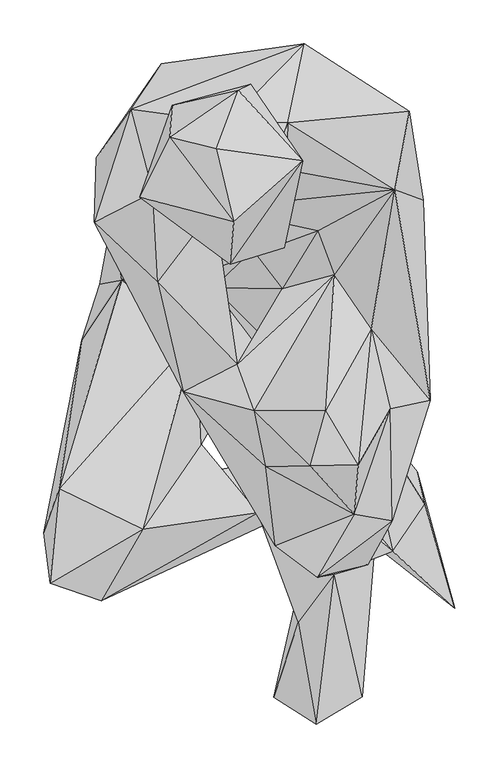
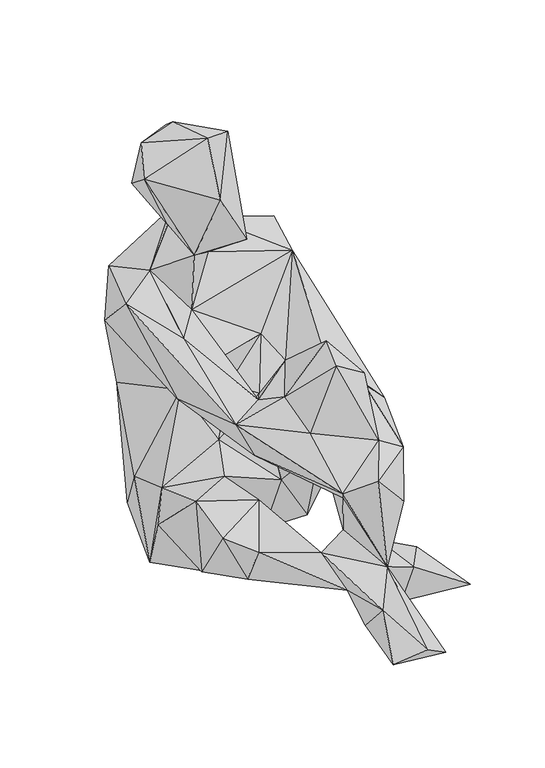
"""IFC4 building model written with IfcOpenShell, lengths in millimetres: geographic element geometry, TempEnscape AssetDefinition - Rea 003 Sitting : TempEnscape AssetDefinition - Rea 003 Sitting."""

from ifc_helpers import new_model, si_unit, origin, place, context, project, spatial, faceted_brep, source, transform, mapped, element, save


def geographic_element_7607d973(model_context):
    return source(origin(), model_context, "Body", "Brep", [
        faceted_brep([(-171.890825, -33.5494988, 18.2507243), (-59.1670536, 25.9828791, -4.3757376), (-60.6267154, -134.9384189, 13.6026246), (-133.6654872, 108.2183644, 41.0704501), (27.0103551, -74.4462535, 42.4086116), (78.2568827, 66.0454258, -0.6539958), (-60.9137602, -91.3677812, 190.4457062), (-55.5407144, -217.1567976, 160.4931802), (111.03414, -72.8137121, 39.5153724), (35.9885246, -115.2402684, 163.7623459), (74.8278871, 155.036971, 46.8031056), (162.9680991, 32.1925767, 31.4505138), (121.9881698, -180.1733971, 254.6302676), (73.0575323, -183.9130968, 256.2440336), (181.1193377, -60.6283508, 146.3148445), (171.4088768, 102.473475, 129.274264), (40.9774855, 194.372952, 167.7140594), (126.7365664, 99.9007225, 199.2738396), (163.0113125, -86.5076706, 274.6366858), (206.608057, -166.4296985, 303.9889932), (178.6452383, -3.2438845, 316.7158067), (90.2122855, 35.7495956, 297.0592678), (112.2410148, 154.3373019, 332.8969181), (107.1158722, 59.7566254, 236.3330573), (198.8962889, 62.3628236, 361.8154526), (166.1761105, 74.186936, 473.5500515), (182.7070266, 164.0697718, 484.1428101), (62.2869879, 241.5772378, 418.1658924), (43.6758325, 150.7884413, 539.4666791), (-100.9143293, 218.8969702, 315.5929446), (-136.2553835, 166.8048203, 492.0274615), (-25.7341657, 151.5843272, 579.4036388), (-93.2335481, 144.0593004, 142.3859894), (-148.754701, 116.9176623, 287.7907753), (-175.3312349, 110.9069288, 427.5102019), (-178.0719757, 37.2687951, 506.8663359), (-110.9892875, 71.7063248, 531.8119526), (-127.5903434, -49.6368147, 346.8787372), (-80.7122141, 22.3581772, 305.6949377), (-157.0283026, 43.5608551, 141.8950707), (-146.1623609, -29.0383957, 159.0922326), (-192.3522353, -98.1222093, 140.6091005), (-169.5765555, -269.8996663, 136.908561), (-40.8372283, -37.5476815, 225.8259058), (-218.2601094, -268.2638764, 301.5304208), (-235.8315587, -318.6191022, 193.7124282), (-228.4459621, -376.1536181, 294.4041491), (-122.5818172, -314.5858645, 299.057126), (-169.7844863, -396.1958885, 257.7983141), (9.2709213, -295.6721783, 133.0261827), (-181.6673279, -379.7970712, 196.1685866), (64.4455031, -287.4613404, 31.9601744), (-83.1088424, -254.0162206, 113.1159961), (71.5676993, -228.047207, 51.1943363), (143.2748288, -332.7411711, 8.5557662), (63.76867, -349.3503928, -2.7122071), (55.9207201, -421.0265279, 74.9273747), (96.0697085, -206.2883824, 5.4219682), (50.7515445, -297.4669933, 166.3832217), (97.1069634, -365.8168912, 115.5672595), (110.636197, -296.0497141, 131.4727366), (49.9042869, -297.7075577, 233.1242263), (-55.6459166, -183.5167855, 287.206918), (29.6279676, -333.1758082, 269.798547), (12.2432588, -109.9414229, 288.4137928), (-76.1831775, -156.9410563, 341.5179253), (-54.9323894, -21.4008316, 371.1296022), (-14.237049, -125.1651794, 351.7502546), (37.5631712, -39.1940847, 294.7988212), (3.4934143, 4.8348396, 298.3484864), (96.7285931, -23.0504982, 331.2970102), (78.1353787, 27.3895413, 362.1228933), (-40.2655937, 53.0984253, 437.1627569), (139.0132457, -84.7903118, 363.8557196), (19.5644237, 101.3187915, 505.3145289), (87.3435065, -177.9602617, 469.0104425), (124.4467646, -240.4878139, 428.6567569), (161.2817347, -176.4549315, 352.8356254), (163.096115, -304.4815361, 301.5393913), (119.6779758, -297.1147299, 326.233834), (69.6831793, -241.8952882, 462.7991021), (5.5711963, -178.8906902, 382.9439282), (18.6405126, -242.5517291, 342.2632515), (77.3256272, -369.6218133, 300.4279137), (-105.3512245, -31.6233896, 451.6069591), (-53.1098396, 23.5626064, 571.4520812), (-66.7980909, 88.412568, 599.4564891), (39.5936593, 7.7460185, 581.3606977), (-22.377748, -11.0567696, 694.1774487), (-125.5884022, 65.95736, 726.8282771), (60.6846176, 107.3238179, 735.2266908), (35.2774486, 126.3671666, 610.9780669), (-17.9742854, 37.6471654, 789.845109), (-91.2536234, 134.4564855, 747.6199865), (-88.6531323, 171.0264385, 642.2019005), (-38.4120606, 121.0985035, 780.6900144), (-12.9796155, 188.4119511, 725.1158357), (1.5526285, 194.9209273, 652.3535252), (135.4480833, -354.9484909, 230.5229157), (163.7395173, -339.5445347, 77.0141259), (235.0911051, -404.5559466, 54.7081381), (200.485602, -285.6183946, 72.159715), (123.8677874, -163.2013172, 52.4574779), (191.762656, -248.2248545, -2.1968388), (129.1380823, -506.33955, 14.7564942), (27.4906568, -506.9519877, 24.7091372), (76.5892714, -537.7231836, 57.4741662)], [[[0, 1, 2]], [[3, 1, 0]], [[2, 1, 4]], [[4, 1, 5]], [[3, 5, 1]], [[6, 7, 4]], [[4, 5, 8]], [[4, 7, 2]], [[4, 9, 6]], [[4, 8, 9]], [[10, 5, 3]], [[5, 11, 8]], [[10, 11, 5]], [[12, 13, 8]], [[14, 12, 8]], [[11, 14, 8]], [[13, 9, 8]], [[11, 15, 14]], [[10, 15, 11]], [[16, 10, 3]], [[16, 15, 10]], [[17, 18, 15]], [[16, 17, 15]], [[15, 18, 14]], [[14, 18, 12]], [[18, 19, 12]], [[18, 20, 19]], [[21, 18, 17]], [[20, 18, 21]], [[22, 23, 17]], [[16, 22, 17]], [[23, 21, 17]], [[22, 24, 21]], [[22, 21, 23]], [[21, 24, 20]], [[24, 19, 20]], [[25, 19, 24]], [[26, 25, 24]], [[22, 26, 24]], [[16, 27, 22]], [[27, 26, 22]], [[28, 26, 27]], [[28, 25, 26]], [[27, 29, 30]], [[27, 16, 29]], [[31, 27, 30]], [[28, 27, 31]], [[29, 32, 33]], [[29, 16, 32]], [[29, 34, 30]], [[29, 33, 34]], [[34, 35, 30]], [[36, 30, 35]], [[31, 30, 36]], [[34, 37, 35]], [[33, 38, 34]], [[34, 38, 37]], [[33, 39, 38]], [[33, 3, 39]], [[33, 32, 3]], [[3, 32, 16]], [[39, 3, 0]], [[39, 0, 40]], [[38, 39, 40]], [[0, 41, 40]], [[0, 2, 42]], [[41, 0, 42]], [[43, 40, 6]], [[40, 41, 44]], [[6, 40, 44]], [[43, 38, 40]], [[41, 45, 44]], [[41, 42, 45]], [[44, 45, 46]], [[47, 44, 46]], [[6, 44, 47]], [[7, 6, 47]], [[9, 43, 6]], [[47, 46, 48]], [[47, 48, 49]], [[49, 7, 47]], [[45, 50, 46]], [[48, 46, 50]], [[45, 42, 50]], [[51, 48, 50]], [[51, 50, 42]], [[48, 51, 49]], [[52, 53, 51]], [[51, 54, 55]], [[51, 55, 56]], [[49, 51, 56]], [[57, 51, 53]], [[42, 52, 51]], [[57, 54, 51]], [[52, 42, 2]], [[49, 52, 7]], [[53, 52, 49]], [[2, 7, 52]], [[58, 49, 59]], [[58, 60, 49]], [[59, 49, 56]], [[49, 60, 53]], [[13, 58, 61]], [[59, 61, 58]], [[58, 13, 60]], [[62, 61, 63]], [[59, 63, 61]], [[62, 13, 61]], [[13, 12, 60]], [[64, 9, 13]], [[64, 13, 62]], [[65, 37, 62]], [[37, 64, 62]], [[65, 62, 63]], [[37, 66, 64]], [[64, 66, 67]], [[68, 9, 64]], [[68, 64, 67]], [[68, 43, 9]], [[68, 69, 43]], [[68, 67, 70]], [[71, 69, 68]], [[71, 68, 70]], [[38, 43, 69]], [[66, 38, 69]], [[71, 66, 69]], [[71, 72, 66]], [[25, 72, 71]], [[70, 25, 71]], [[25, 73, 19]], [[28, 74, 25]], [[74, 72, 25]], [[25, 70, 73]], [[73, 70, 75]], [[73, 75, 76]], [[77, 73, 76]], [[19, 73, 77]], [[19, 78, 12]], [[77, 78, 19]], [[79, 78, 77]], [[77, 76, 79]], [[80, 79, 76]], [[76, 75, 80]], [[70, 81, 75]], [[75, 81, 80]], [[80, 81, 82]], [[79, 80, 82]], [[79, 63, 83]], [[79, 82, 63]], [[79, 83, 78]], [[82, 65, 63]], [[81, 65, 82]], [[70, 67, 81]], [[67, 65, 81]], [[35, 65, 84]], [[35, 37, 65]], [[67, 84, 65]], [[72, 67, 66]], [[72, 84, 67]], [[72, 36, 84]], [[36, 35, 84]], [[85, 72, 74]], [[36, 72, 85]], [[31, 36, 86]], [[85, 86, 36]], [[85, 87, 88]], [[89, 86, 85]], [[85, 74, 87]], [[88, 89, 85]], [[74, 28, 87]], [[88, 87, 90]], [[91, 90, 87]], [[28, 91, 87]], [[89, 88, 92]], [[90, 92, 88]], [[93, 94, 89]], [[92, 93, 89]], [[89, 94, 86]], [[95, 93, 92]], [[95, 92, 90]], [[95, 90, 96]], [[97, 90, 91]], [[96, 90, 97]], [[97, 91, 31]], [[31, 91, 28]], [[94, 96, 97]], [[94, 97, 31]], [[94, 31, 86]], [[93, 96, 94]], [[95, 96, 93]], [[38, 66, 37]], [[59, 83, 63]], [[83, 59, 98]], [[78, 83, 98]], [[12, 98, 60]], [[60, 98, 59]], [[98, 12, 78]], [[99, 60, 59]], [[53, 60, 99]], [[99, 100, 101]], [[102, 53, 99]], [[102, 99, 101]], [[54, 99, 59]], [[99, 54, 100]], [[102, 57, 53]], [[102, 103, 57]], [[102, 101, 103]], [[103, 101, 100]], [[103, 100, 54]], [[54, 104, 55]], [[57, 103, 54]], [[54, 59, 104]], [[55, 104, 105]], [[59, 106, 104]], [[106, 105, 104]], [[56, 55, 105]], [[56, 105, 106]], [[59, 56, 106]]]),
    ])


if __name__ == "__main__":
    model = new_model("IFC4")
    model_context = context("Model", 3, world=origin())
    ifc_project = project(units=[si_unit("LENGTHUNIT", "METRE", prefix="MILLI")], contexts=[model_context])
    site = spatial("IfcSite", under=ifc_project)
    building = spatial("IfcBuilding", under=site)
    placement = place(None, origin())
    geographic_element_shape = geographic_element_7607d973(model_context)
    element("IfcGeographicElement", 1, ObjectType="TempEnscape AssetDefinition - Rea 003 Sitting : TempEnscape AssetDefinition - Rea 003 Sitting", at=placement, inside=building, context=model_context, shape_type="MappedRepresentation", body=[
        mapped(geographic_element_shape, transform((0.0, 0.0, 0.0), x_axis=(1.0, 0.0, 0.0), y_axis=(0.0, 1.0, 0.0), z_axis=(0.0, 0.0, 1.0))),
    ])
    save(model, "model.ifc")
